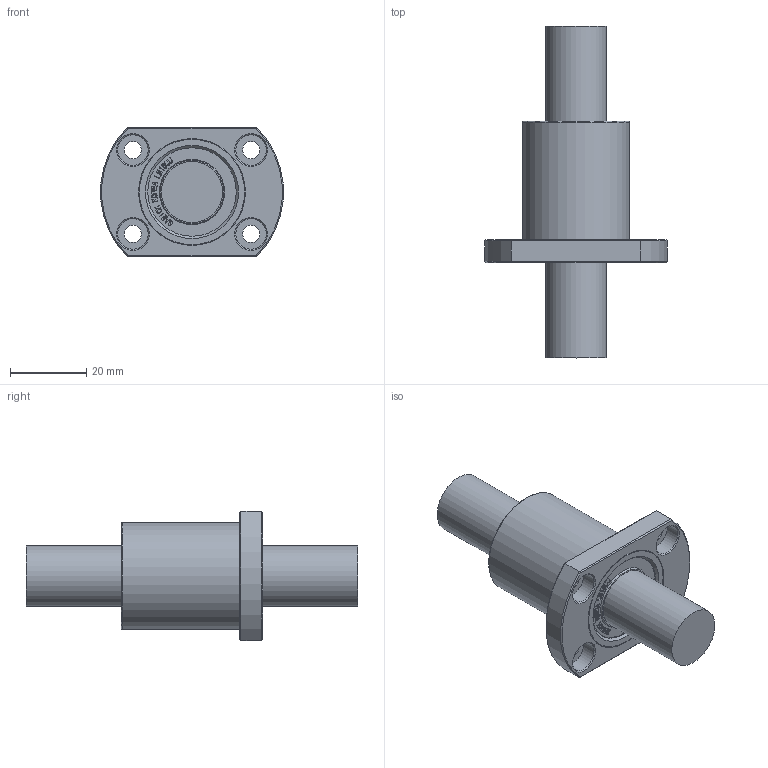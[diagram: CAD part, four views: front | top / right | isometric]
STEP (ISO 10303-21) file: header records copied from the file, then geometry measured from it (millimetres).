
FILE_DESCRIPTION(/* description */ (''),/* implementation_level */ '2;1');
FILE_NAME(/* name */ 'W:\(01) 2024년 홈페이지 CAD파일 최신화\LMH\IPT\LMH16UU.stp',/* time_stamp */ '2025-01-23T09:34:46+09:00',/* author */ ('서우현'),/* organization */ (''),/* preprocessor_version */ 'ST-DEVELOPER v17.2',/* originating_system */ 'Autodesk Inventor 2019',/* authorisation */ '');
FILE_SCHEMA (('AUTOMOTIVE_DESIGN { 1 0 10303 214 3 1 1 }'));
Length unit declared in the file: millimetre
Products named in the file (1): LM5
Bounding box: 47.82 x 87 x 34 mm (x, y, z)
Volume: 36656.6 mm3; surface area: 9585 mm2
Topology: 1 solids, 1 shells, 854 faces, 2396 edges, 1600 vertices
Faces by surface type: bspline 588, plane 232, cone 16, cylinder 16, torus 2
Full cylindrical faces by diameter (mm): 4.5 x4, 8 x4, 16 x2, 23.2 x2, 28 x2
Entity records: 29030 total; most frequent: CARTESIAN_POINT 10159, ORIENTED_EDGE 4792, EDGE_CURVE 2396, DIRECTION 1828, VERTEX_POINT 1600, B_SPLINE_CURVE_WITH_KNOTS 1176, LINE 1130, VECTOR 1130
